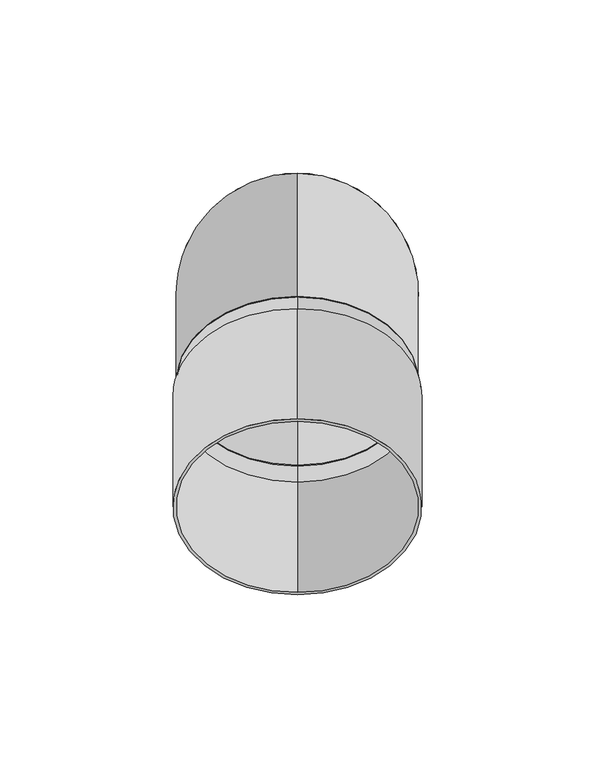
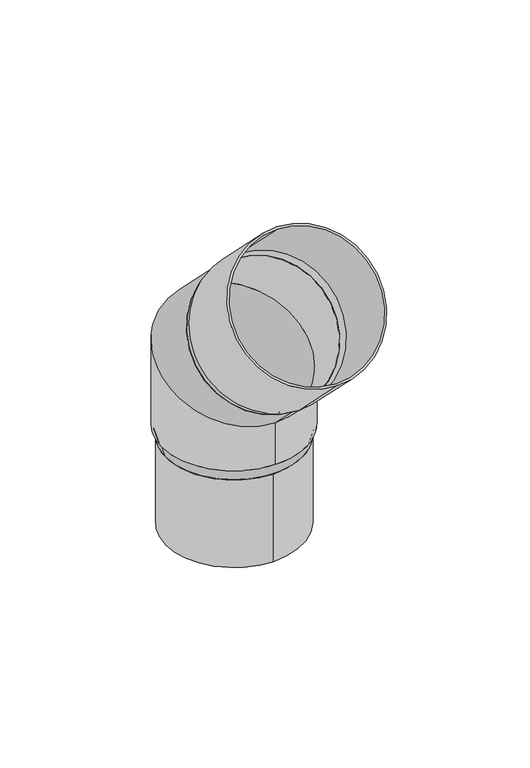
"""IFC4 building model written with IfcOpenShell, lengths in millimetres: proxy geometry, GROVIK_Downpipe_Knee : N70_45°_Up."""

from ifc_helpers import new_model, si_unit, point, frame, origin, origin_with_axes, origin_2d, place, context, project, spatial, polyline, circle_curve, ellipse_curve, trimmed, segment, composite_curve, outline, extrude, source, transform, mapped, element, save
from ifc_brep_helpers import plane_surface, cylinder_surface, revolved_surface, advanced_brep


def generic_models_3c147e11(model_context):
    return source(origin(), model_context, "Body", "SolidModel", [
        extrude(outline(composite_curve([segment(trimmed(circle_curve(origin_2d(), 33.2), [point((0.0, 33.2))], [point((0.0, -33.2))], False, "CARTESIAN"), True, "CONTINUOUS"), segment(trimmed(circle_curve(origin_2d(), 33.2), [point((0.0, -33.2))], [point((0.0, 33.2))], False, "CARTESIAN"), True, "CONTINUOUS")], self_intersect=False), holes=[composite_curve([segment(trimmed(circle_curve(origin_2d(), 32.2), [point((0.0, 32.2))], [point((0.0, -32.2))], True, "CARTESIAN"), True, "CONTINUOUS"), segment(trimmed(circle_curve(origin_2d(), 32.2), [point((0.0, -32.2))], [point((0.0, 32.2))], True, "CARTESIAN"), True, "CONTINUOUS")], self_intersect=False)]), frame((0.0, 0.0, -51.0), z_axis=(0.0, 0.0, 1.0), x_axis=(1.0, 0.0, 0.0)), (0.0, 0.0, 1.0), 45.0),
        advanced_brep(
        [(0.0, 35.0, 0.0), (0.0, -35.0, 0.0), (0.0, 34.0, 0.0), (0.0, -34.0, 0.0), (0.0, 34.0, 49.9832611), (0.0, -34.0, 21.8167389), (0.0, 35.0, 50.3974747), (0.0, -35.0, 21.4025253), (0.0, -0.6363961, 86.0338708), (0.0, -50.1338708, 36.5363961), (0.0, -1.3435029, 85.326764), (0.0, -49.426764, 37.2435029)],
        [
            (0, 1, circle_curve(frame((0.0, 0.0, 0.0), z_axis=(0.0, 0.0, -1.0), x_axis=(0.0, -1.0, 0.0)), 35.0)),
            (1, 0, circle_curve(frame((0.0, 0.0, 0.0), z_axis=(0.0, 0.0, -1.0), x_axis=(0.0, -1.0, 0.0)), 35.0)),
            (2, 3, circle_curve(frame((0.0, 0.0, 0.0), z_axis=(0.0, 0.0, 1.0), x_axis=(0.0, -1.0, 0.0)), 34.0)),
            (3, 2, circle_curve(frame((0.0, 0.0, 0.0), z_axis=(0.0, 0.0, 1.0), x_axis=(0.0, -1.0, 0.0)), 34.0)),
            (2, 4),
            (4, 5, ellipse_curve(frame((0.0, 0.0, 35.9), z_axis=(0.0, -0.3826834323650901, 0.9238795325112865), x_axis=(0.0, 0.9238795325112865, 0.3826834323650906)), 36.8013348, 34.0)),
            (5, 3),
            (5, 4, ellipse_curve(frame((0.0, 0.0, 35.9), z_axis=(0.0, -0.3826834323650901, 0.9238795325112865), x_axis=(0.0, 0.9238795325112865, 0.3826834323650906)), 36.8013348, 34.0)),
            (0, 6),
            (6, 7, ellipse_curve(frame((0.0, 0.0, 35.9), z_axis=(0.0, 0.3826834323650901, -0.9238795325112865), x_axis=(0.0, -0.9238795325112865, -0.3826834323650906)), 37.883727, 35.0)),
            (7, 1),
            (7, 6, ellipse_curve(frame((0.0, 0.0, 35.9), z_axis=(0.0, 0.3826834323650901, -0.9238795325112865), x_axis=(0.0, -0.9238795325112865, -0.3826834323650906)), 37.883727, 35.0)),
            (8, 9, circle_curve(frame((0.0, -25.3851334, 61.2851334), z_axis=(0.0, -0.7071067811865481, 0.7071067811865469), x_axis=(0.0, -0.7071067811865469, -0.7071067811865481)), 35.0)),
            (9, 8, circle_curve(frame((0.0, -25.3851334, 61.2851334), z_axis=(0.0, -0.7071067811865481, 0.7071067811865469), x_axis=(0.0, -0.7071067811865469, -0.7071067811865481)), 35.0)),
            (10, 11, circle_curve(frame((0.0, -25.3851334, 61.2851334), z_axis=(0.0, 0.7071067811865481, -0.7071067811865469), x_axis=(0.0, -0.7071067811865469, -0.7071067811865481)), 34.0)),
            (11, 10, circle_curve(frame((0.0, -25.3851334, 61.2851334), z_axis=(0.0, 0.7071067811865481, -0.7071067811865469), x_axis=(0.0, -0.7071067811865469, -0.7071067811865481)), 34.0)),
            (4, 10),
            (11, 5),
            (6, 8),
            (9, 7),
        ],
        [
            plane_surface(frame((0.0, 0.0, 0.0), z_axis=(0.0, 0.0, -1.0), x_axis=(1.0, 0.0, 0.0))),
            revolved_surface(polyline([(0.0, -34.0, 49.983261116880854), (0.0, -34.0, 0.0)]), (0.0, 0.0, 0.0), (0.0, 0.0, 1.0)),
            cylinder_surface(frame((0.0, 0.0, 0.0), z_axis=(0.0, 0.0, -1.0), x_axis=(0.0, -1.0, 0.0)), 35.0),
            plane_surface(frame((0.0, -25.3851334, 61.2851334), z_axis=(0.0, -0.7071067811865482, 0.707106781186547), x_axis=(1.0, 0.0, 0.0))),
            revolved_surface(polyline([(0.0, -49.42676401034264, 37.243502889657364), (0.0, -14.083261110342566, 1.899999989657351)]), (0.0, 0.0, 35.9), (0.0, -0.7071067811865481, 0.7071067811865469)),
            cylinder_surface(frame((0.0, 0.0, 35.9), z_axis=(0.0, 0.7071067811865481, -0.7071067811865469), x_axis=(0.0, -0.7071067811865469, -0.7071067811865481)), 35.0),
        ],
        [
            (0, [[1, 2], [3, 4]]),
            (1, [[-3, 5, 6, 7]]),
            (1, [[-4, -7, 8, -5]]),
            (2, [[-1, 9, 10, 11]]),
            (2, [[-2, -11, 12, -9]]),
            (3, [[13, 14], [15, 16]]),
            (4, [[-6, 17, -16, 18]]),
            (4, [[-8, -18, -15, -17]]),
            (5, [[-10, 19, -14, 20]]),
            (5, [[-12, -20, -13, -19]]),
        ],
    ),
        advanced_brep(
        [(-33.2, 0.0, -6.0), (33.2, 0.0, -6.0), (-32.2, 0.0, -6.0), (32.2, 0.0, -6.0), (-35.0, 0.0, 0.0), (35.0, 0.0, 0.0), (34.0, 0.0, 0.0), (-34.0, 0.0, 0.0)],
        [
            (0, 1, circle_curve(frame((0.0, 0.0, -6.0), z_axis=(0.0, 0.0, -1.0), x_axis=(-1.0, 0.0, 0.0)), 33.2)),
            (1, 0, circle_curve(frame((0.0, 0.0, -6.0), z_axis=(0.0, 0.0, -1.0), x_axis=(1.0, 0.0, 0.0)), 33.2)),
            (2, 3, circle_curve(frame((0.0, 0.0, -6.0), z_axis=(0.0, 0.0, 1.0), x_axis=(1.0, 0.0, 0.0)), 32.2)),
            (3, 2, circle_curve(frame((0.0, 0.0, -6.0), z_axis=(0.0, 0.0, 1.0), x_axis=(-1.0, 0.0, 0.0)), 32.2)),
            (4, 5, circle_curve(origin_with_axes(), 35.0)),
            (5, 4, circle_curve(frame((0.0, 0.0, 0.0), z_axis=(0.0, 0.0, 1.0), x_axis=(-1.0, 0.0, 0.0)), 35.0)),
            (6, 7, circle_curve(frame((0.0, 0.0, 0.0), z_axis=(0.0, 0.0, -1.0), x_axis=(1.0, 0.0, 0.0)), 34.0)),
            (7, 6, circle_curve(frame((0.0, 0.0, 0.0), z_axis=(0.0, 0.0, -1.0), x_axis=(-1.0, 0.0, 0.0)), 34.0)),
            (1, 5),
            (4, 0),
            (6, 3),
            (2, 7),
        ],
        [
            plane_surface(frame((0.0, 0.0, -6.0), z_axis=(0.0, 0.0, -1.0), x_axis=(0.0, 1.0, 0.0))),
            plane_surface(frame((0.0, 0.0, 0.0), z_axis=(0.0, 0.0, 1.0), x_axis=(0.0, 1.0, 0.0))),
            revolved_surface(polyline([(33.20000000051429, 0.0, -6.0), (35.0, 0.0, 0.0)]), (0.0, 0.0, -116.6666667), (0.0, 0.0, 1.0)),
            revolved_surface(polyline([(-33.20000000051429, 0.0, -6.0), (-35.0, 0.0, 0.0)]), (0.0, 0.0, -116.6666667), (0.0, 0.0, 1.0)),
            revolved_surface(polyline([(34.0, 0.0, 0.0), (32.19999999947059, 0.0, -6.0)]), (0.0, 0.0, -113.3333333), (0.0, 0.0, 1.0)),
        ],
        [
            (0, [[1, 2], [3, 4]]),
            (1, [[5, 6], [7, 8]]),
            (2, [[-2, 9, -5, 10]]),
            (3, [[-1, -10, -6, -9]]),
            (4, [[11, -3, 12, -7]]),
            (4, [[-11, -8, -12, -4]]),
        ],
    ),
        extrude(outline(composite_curve([segment(trimmed(circle_curve(origin_2d(), 36.0), [point((0.0, -36.0))], [point((0.0, 36.0))], False, "CARTESIAN"), True, "CONTINUOUS"), segment(trimmed(circle_curve(origin_2d(), 36.0), [point((0.0, 36.0))], [point((0.0, -36.0))], False, "CARTESIAN"), True, "CONTINUOUS")], self_intersect=False), holes=[composite_curve([segment(trimmed(circle_curve(origin_2d(), 35.0), [point((0.0, -35.0))], [point((0.0, 35.0))], True, "CARTESIAN"), True, "CONTINUOUS"), segment(trimmed(circle_curve(origin_2d(), 35.0), [point((0.0, 35.0))], [point((0.0, -35.0))], True, "CARTESIAN"), True, "CONTINUOUS")], self_intersect=False)]), frame((0.0, -29.6277741, 65.5277741), z_axis=(0.0, -0.7071067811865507, 0.7071067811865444), x_axis=(1.0, 0.0, 0.0)), (0.0, 0.0, 1.0), 45.0),
        advanced_brep(
        [(0.0, -50.1338708, 36.5363961), (0.0, -0.6363961, 86.0338708), (0.0, -1.3435029, 85.326764), (0.0, -49.426764, 37.2435029), (0.0, -55.0836183, 40.07193), (0.0, -4.17193, 90.9836183), (0.0, -54.3765115, 40.7790368), (0.0, -4.8790368, 90.2765115)],
        [
            (0, 1, circle_curve(frame((0.0, -25.3851334, 61.2851334), z_axis=(0.0, 0.7071067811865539, -0.7071067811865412), x_axis=(0.0, -0.7071067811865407, -0.7071067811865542)), 35.0)),
            (1, 0, circle_curve(frame((0.0, -25.3851334, 61.2851334), z_axis=(0.0, 0.7071067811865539, -0.7071067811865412), x_axis=(0.0, 0.7071067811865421, 0.7071067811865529)), 35.0)),
            (2, 3, circle_curve(frame((0.0, -25.3851334, 61.2851334), z_axis=(0.0, -0.7071067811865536, 0.7071067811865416), x_axis=(0.0, -0.7071067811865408, -0.7071067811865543)), 34.0)),
            (3, 2, circle_curve(frame((0.0, -25.3851334, 61.2851334), z_axis=(0.0, -0.7071067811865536, 0.7071067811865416), x_axis=(0.0, 0.7071067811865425, 0.7071067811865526)), 34.0)),
            (4, 5, circle_curve(frame((0.0, -29.6277741, 65.5277741), z_axis=(0.0, -0.7071067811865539, 0.7071067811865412), x_axis=(0.0, 0.7071067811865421, 0.7071067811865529)), 36.0)),
            (5, 4, circle_curve(frame((0.0, -29.6277741, 65.5277741), z_axis=(0.0, -0.7071067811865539, 0.7071067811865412), x_axis=(0.0, -0.7071067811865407, -0.7071067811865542)), 36.0)),
            (6, 7, circle_curve(frame((0.0, -29.6277741, 65.5277741), z_axis=(0.0, 0.7071067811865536, -0.7071067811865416), x_axis=(0.0, -0.7071067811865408, -0.7071067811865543)), 35.0)),
            (7, 6, circle_curve(frame((0.0, -29.6277741, 65.5277741), z_axis=(0.0, 0.7071067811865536, -0.7071067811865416), x_axis=(0.0, 0.7071067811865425, 0.7071067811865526)), 35.0)),
            (0, 4),
            (5, 1),
            (6, 3),
            (2, 7),
        ],
        [
            plane_surface(frame((0.0, -25.3851334, 61.2851334), z_axis=(0.0, 0.7071067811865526, -0.7071067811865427), x_axis=(-1.0, 0.0, 0.0))),
            plane_surface(frame((0.0, -29.6277741, 65.5277741), z_axis=(0.0, -0.7071067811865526, 0.7071067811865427), x_axis=(-1.0, 0.0, 0.0))),
            revolved_surface(polyline([(0.0, -50.13387075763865, 36.536396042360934), (0.0, -55.08361830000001, 40.07193000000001)]), (0.0, 123.1072906, -87.2072906), (0.0, -0.7071067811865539, 0.7071067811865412)),
            revolved_surface(polyline([(0.0, -0.636396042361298, 86.03387075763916), (0.0, -4.171930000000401, 90.98361830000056)]), (0.0, 123.1072906, -87.2072906), (0.0, -0.7071067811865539, 0.7071067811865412)),
            revolved_surface(polyline([(0.0, -54.37651150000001, 40.7790368), (0.0, -49.42676395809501, 37.243502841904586)]), (0.0, 118.8646499, -82.9646499), (0.0, -0.7071067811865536, 0.7071067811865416)),
        ],
        [
            (0, [[1, 2], [3, 4]]),
            (1, [[5, 6], [7, 8]]),
            (2, [[-1, 9, -6, 10]]),
            (3, [[-2, -10, -5, -9]]),
            (4, [[11, -3, 12, -7]]),
            (4, [[-11, -8, -12, -4]]),
        ],
    ),
    ])


if __name__ == "__main__":
    model = new_model("IFC4")
    model_context = context("Model", 3, world=origin())
    ifc_project = project(units=[si_unit("LENGTHUNIT", "METRE", prefix="MILLI")], contexts=[model_context])
    site = spatial("IfcSite", under=ifc_project)
    building = spatial("IfcBuilding", under=site)
    placement = place(None, origin())
    generic_models_shape = generic_models_3c147e11(model_context)
    element("IfcBuildingElementProxy", 1, Name="GROVIK_Downpipe_Knee : N70_45°_Up", ObjectType="GROVIK_Downpipe_Knee : N70_45°_Up", at=placement, inside=building, context=model_context, shape_type="MappedRepresentation", body=[
        mapped(generic_models_shape, transform((0.0, 0.0, 0.0), x_axis=(1.0, 0.0, 0.0), y_axis=(0.0, 1.0, 0.0), z_axis=(0.0, 0.0, 1.0))),
    ])
    save(model, "model.ifc")
